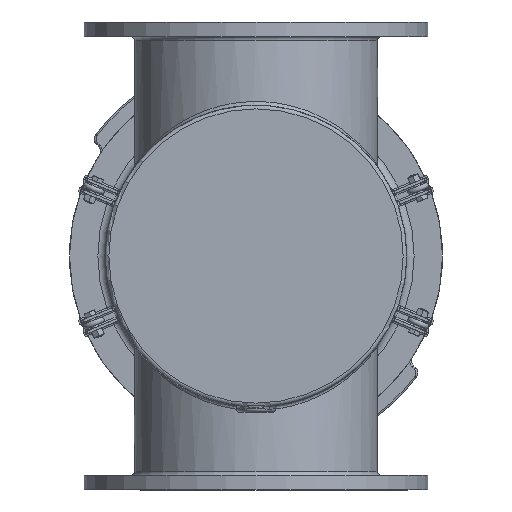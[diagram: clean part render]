
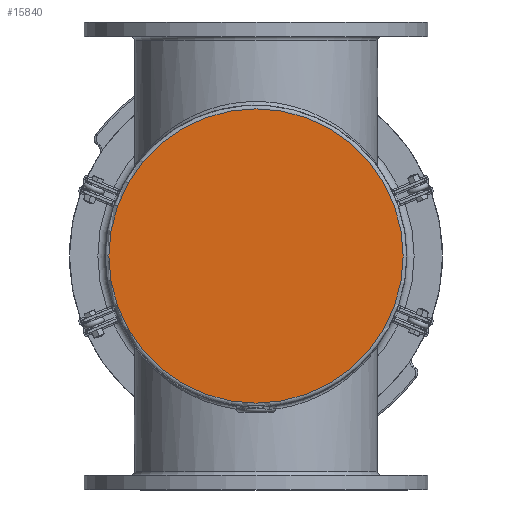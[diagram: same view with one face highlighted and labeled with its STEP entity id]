
A CAD part, front view. The second image highlights one B-rep face of the part: STEP entity #15840.
In plain terms, the highlighted planar face has unit normal (0, -1, 0).
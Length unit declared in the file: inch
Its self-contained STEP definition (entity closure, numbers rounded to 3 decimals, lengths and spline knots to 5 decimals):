
#2253=PLANE('',#16899);
#3603=FACE_OUTER_BOUND('',#4615,.T.);
#4615=EDGE_LOOP('',(#10587));
#5874=CIRCLE('',#16895,10.0625);
#6847=VERTEX_POINT('',#24211);
#8291=EDGE_CURVE('',#6847,#6847,#5874,.T.);
#10587=ORIENTED_EDGE('',*,*,#8291,.F.);
#15840=ADVANCED_FACE('',(#3603),#2253,.F.);
#16895=AXIS2_PLACEMENT_3D('',#24212,#18959,#18960);
#16899=AXIS2_PLACEMENT_3D('',#24217,#18967,#18968);
#18959=DIRECTION('center_axis',(0.,1.,0.));
#18960=DIRECTION('ref_axis',(1.,0.,0.));
#18967=DIRECTION('center_axis',(0.,1.,0.));
#18968=DIRECTION('ref_axis',(0.,0.,1.));
#24211=CARTESIAN_POINT('',(-10.0625,0.,0.));
#24212=CARTESIAN_POINT('Origin',(0.,0.,0.));
#24217=CARTESIAN_POINT('Origin',(0.,0.,0.));
